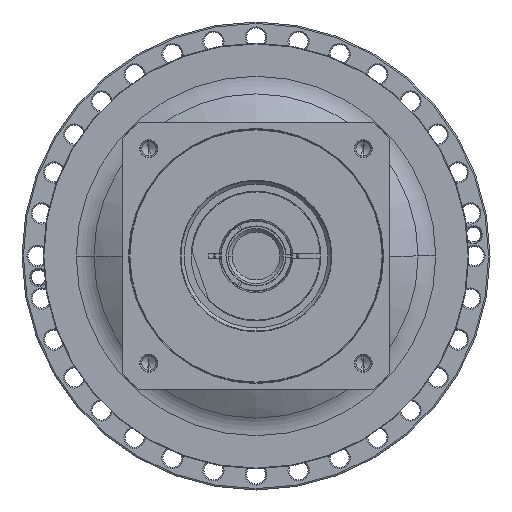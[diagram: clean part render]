
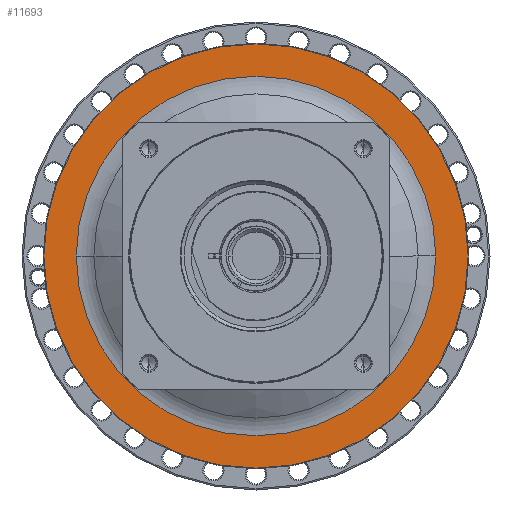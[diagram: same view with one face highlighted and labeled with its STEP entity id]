
A CAD part, left-side view. The second image highlights one B-rep face of the part: STEP entity #11693.
In plain terms, the highlighted planar face has unit normal (-1, 0, 0) as drawn and (1, 0, 0) by its records, which use the part's own axes.
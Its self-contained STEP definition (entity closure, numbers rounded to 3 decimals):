
#11124=CARTESIAN_POINT('',(-25.,0.,0.));
#11125=DIRECTION('',(-1.,0.,0.));
#11126=DIRECTION('',(0.,-1.,0.));
#11127=AXIS2_PLACEMENT_3D('',#11124,#11125,#11126);
#11129=CARTESIAN_POINT('',(-25.,0.,0.));
#11130=DIRECTION('',(-1.,0.,0.));
#11131=DIRECTION('',(0.,1.,0.));
#11132=AXIS2_PLACEMENT_3D('',#11129,#11130,#11131);
#11134=CARTESIAN_POINT('',(-25.,0.,0.));
#11135=DIRECTION('',(1.,0.,0.));
#11136=DIRECTION('',(0.,1.,0.));
#11137=AXIS2_PLACEMENT_3D('',#11134,#11135,#11136);
#11144=CARTESIAN_POINT('',(-25.,0.,0.));
#11145=DIRECTION('',(-1.,0.,0.));
#11146=DIRECTION('',(0.,1.,0.));
#11147=AXIS2_PLACEMENT_3D('',#11144,#11145,#11146);
#11248=CARTESIAN_POINT('',(-25.,-150.5,0.));
#11249=CARTESIAN_POINT('',(-25.,150.5,0.));
#11250=VERTEX_POINT('',#11248);
#11251=VERTEX_POINT('',#11249);
#11276=CARTESIAN_POINT('',(-25.,127.5,0.));
#11278=VERTEX_POINT('',#11276);
#11280=CARTESIAN_POINT('',(-25.,-127.5,0.));
#11282=VERTEX_POINT('',#11280);
#11678=CARTESIAN_POINT('',(-25.,0.,0.));
#11679=DIRECTION('',(1.,0.,0.));
#11680=DIRECTION('',(0.,-1.,0.));
#11681=AXIS2_PLACEMENT_3D('',#11678,#11679,#11680);
#11682=PLANE('',#11681);
#11683=ORIENTED_EDGE('',*,*,#11619,.T.);
#11684=ORIENTED_EDGE('',*,*,#11634,.T.);
#11685=EDGE_LOOP('',(#11683,#11684));
#11686=FACE_OUTER_BOUND('',#11685,.F.);
#11688=ORIENTED_EDGE('',*,*,#11687,.T.);
#11690=ORIENTED_EDGE('',*,*,#11689,.F.);
#11691=EDGE_LOOP('',(#11688,#11690));
#11692=FACE_BOUND('',#11691,.F.);
#11693=ADVANCED_FACE('',(#11686,#11692),#11682,.T.);
#11128=CIRCLE('',#11127,150.5);
#11133=CIRCLE('',#11132,150.5);
#11138=CIRCLE('',#11137,127.5);
#11148=CIRCLE('',#11147,127.5);
#11619=EDGE_CURVE('',#11250,#11251,#11128,.T.);
#11634=EDGE_CURVE('',#11251,#11250,#11133,.T.);
#11687=EDGE_CURVE('',#11278,#11282,#11138,.T.);
#11689=EDGE_CURVE('',#11278,#11282,#11148,.T.);
